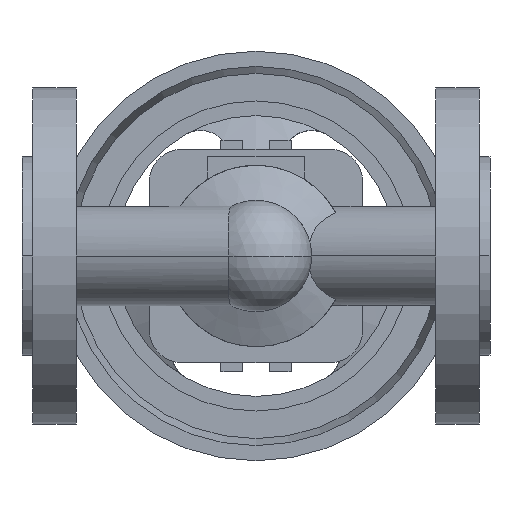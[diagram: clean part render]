
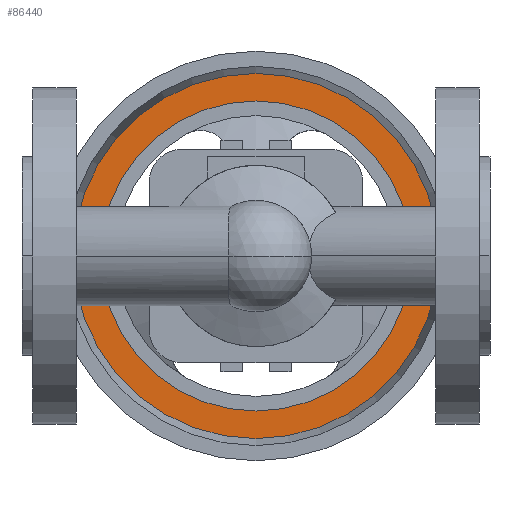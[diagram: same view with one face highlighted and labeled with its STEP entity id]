
A CAD part, front view. The second image highlights one B-rep face of the part: STEP entity #86440.
In plain terms, the highlighted planar face has unit normal (0, -1, 0).
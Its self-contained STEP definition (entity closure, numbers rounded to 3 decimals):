
#85890=CARTESIAN_POINT('',(142.412,233.8,0.)
);
#85900=VERTEX_POINT('',#85890);
#85930=CARTESIAN_POINT('',(80.,233.8,0.));
#85940=DIRECTION('',(0.,1.,0.));
#85950=DIRECTION('',(-1.,0.,0.));
#85960=AXIS2_PLACEMENT_3D('',#85930,#85940,#85950);
#85970=CIRCLE('',#85960,62.412);
#85980=CARTESIAN_POINT('',(17.588,233.8,0.));
#85990=VERTEX_POINT('',#85980);
#86000=EDGE_CURVE('',#85990,#85900,#85970,.T.);
#86190=CARTESIAN_POINT('',(22.294,233.8,0.))
;
#86200=DIRECTION('',(0.,-1.,0.));
#86210=DIRECTION('',(1.,0.,0.));
#86220=AXIS2_PLACEMENT_3D('',#86190,#86200,#86210);
#86230=PLANE('',#86220);
#86240=ORIENTED_EDGE('',*,*,#86000,.F.);
#86250=EDGE_CURVE('',#85900,#85990,#85970,.T.);
#86260=ORIENTED_EDGE('',*,*,#86250,.F.);
#86270=EDGE_LOOP('',(#86260,#86240));
#86280=FACE_OUTER_BOUND('',#86270,.T.);
#86290=CARTESIAN_POINT('',(80.,233.8,0.));
#86300=DIRECTION('',(0.,1.,0.));
#86310=DIRECTION('',(-1.,0.,0.));
#86320=AXIS2_PLACEMENT_3D('',#86290,#86300,#86310);
#86330=CIRCLE('',#86320,53.);
#86340=CARTESIAN_POINT('',(27.,233.8,0.));
#86350=VERTEX_POINT('',#86340);
#86360=CARTESIAN_POINT('',(133.,233.8,0.));
#86370=VERTEX_POINT('',#86360);
#86380=EDGE_CURVE('',#86350,#86370,#86330,.T.);
#86390=ORIENTED_EDGE('',*,*,#86380,.T.);
#86400=EDGE_CURVE('',#86370,#86350,#86330,.T.);
#86410=ORIENTED_EDGE('',*,*,#86400,.T.);
#86420=EDGE_LOOP('',(#86410,#86390));
#86430=FACE_BOUND('',#86420,.T.);
#86440=ADVANCED_FACE('',(#86280,#86430),#86230,.T.);
